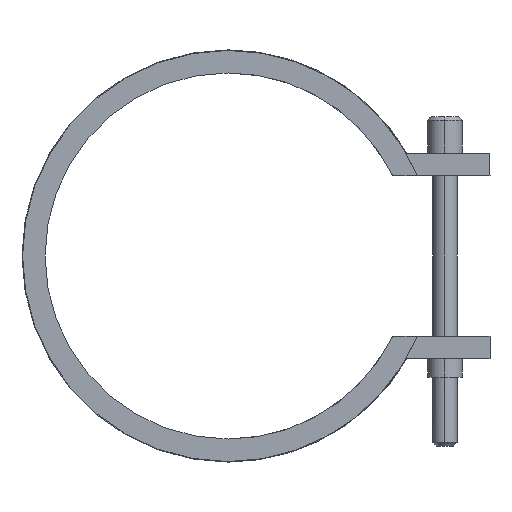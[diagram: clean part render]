
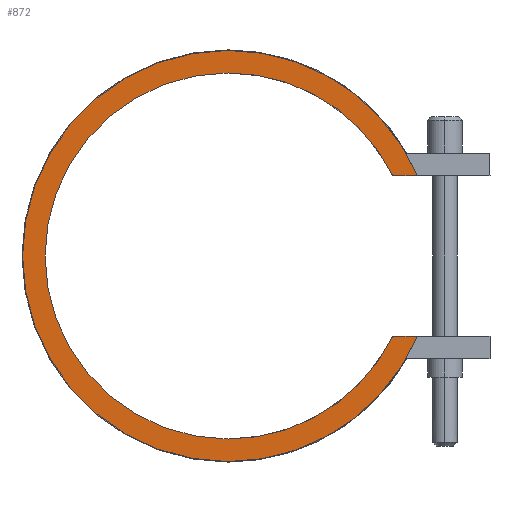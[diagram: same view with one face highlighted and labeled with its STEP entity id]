
A CAD part, left-side view. The second image highlights one B-rep face of the part: STEP entity #872.
In plain terms, the highlighted planar face has unit normal (-1, 0, 0).
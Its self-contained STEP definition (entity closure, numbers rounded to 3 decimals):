
#410=CARTESIAN_POINT('Vertex',(-25.,-29.209,-14.25)) ;
#413=CARTESIAN_POINT('Line Origine',(-25.,-31.406,-14.25)) ;
#417=CARTESIAN_POINT('Vertex',(-25.,-33.603,-14.25)) ;
#463=CARTESIAN_POINT('Vertex',(-25.,0.,-36.5)) ;
#466=CARTESIAN_POINT('Axis2P3D Location',(-25.,0.,0.)) ;
#487=CARTESIAN_POINT('Vertex',(-25.,0.,36.5)) ;
#490=CARTESIAN_POINT('Axis2P3D Location',(-25.,0.,0.)) ;
#502=CARTESIAN_POINT('Axis2P3D Location',(-25.,0.,0.)) ;
#506=CARTESIAN_POINT('Vertex',(-25.,-33.603,14.25)) ;
#526=CARTESIAN_POINT('Line Origine',(-25.,-31.406,14.25)) ;
#530=CARTESIAN_POINT('Vertex',(-25.,-29.209,14.25)) ;
#818=CARTESIAN_POINT('Axis2P3D Location',(-25.,0.,0.)) ;
#822=CARTESIAN_POINT('Vertex',(-25.,0.,-32.5)) ;
#845=CARTESIAN_POINT('Axis2P3D Location',(-25.,0.,0.)) ;
#850=CARTESIAN_POINT('Axis2P3D Location',(-25.,0.,0.)) ;
#854=CARTESIAN_POINT('Vertex',(-25.,0.,32.5)) ;
#857=CARTESIAN_POINT('Axis2P3D Location',(-25.,0.,0.)) ;
#414=DIRECTION('Vector Direction',(0.,1.,0.)) ;
#467=DIRECTION('Axis2P3D Direction',(1.,0.,-0.)) ;
#491=DIRECTION('Axis2P3D Direction',(1.,0.,-0.)) ;
#503=DIRECTION('Axis2P3D Direction',(1.,0.,-0.)) ;
#527=DIRECTION('Vector Direction',(0.,-1.,0.)) ;
#819=DIRECTION('Axis2P3D Direction',(1.,0.,-0.)) ;
#846=DIRECTION('Axis2P3D Direction',(1.,0.,0.)) ;
#847=DIRECTION('Axis2P3D XDirection',(0.,0.,-1.)) ;
#851=DIRECTION('Axis2P3D Direction',(1.,0.,0.)) ;
#858=DIRECTION('Axis2P3D Direction',(1.,0.,0.)) ;
#468=AXIS2_PLACEMENT_3D('Circle Axis2P3D',#466,#467,$) ;
#492=AXIS2_PLACEMENT_3D('Circle Axis2P3D',#490,#491,$) ;
#504=AXIS2_PLACEMENT_3D('Circle Axis2P3D',#502,#503,$) ;
#820=AXIS2_PLACEMENT_3D('Circle Axis2P3D',#818,#819,$) ;
#848=AXIS2_PLACEMENT_3D('Plane Axis2P3D',#845,#846,#847) ;
#852=AXIS2_PLACEMENT_3D('Circle Axis2P3D',#850,#851,$) ;
#859=AXIS2_PLACEMENT_3D('Circle Axis2P3D',#857,#858,$) ;
#863=ORIENTED_EDGE('',*,*,#419,.T.) ;
#864=ORIENTED_EDGE('',*,*,#824,.T.) ;
#865=ORIENTED_EDGE('',*,*,#856,.T.) ;
#866=ORIENTED_EDGE('',*,*,#861,.T.) ;
#867=ORIENTED_EDGE('',*,*,#532,.T.) ;
#868=ORIENTED_EDGE('',*,*,#508,.F.) ;
#869=ORIENTED_EDGE('',*,*,#494,.F.) ;
#870=ORIENTED_EDGE('',*,*,#470,.F.) ;
#415=VECTOR('Line Direction',#414,1.) ;
#528=VECTOR('Line Direction',#527,1.) ;
#872=ADVANCED_FACE('14065050',(#871),#849,.F.) ;
#469=CIRCLE('generated circle',#468,36.5) ;
#493=CIRCLE('generated circle',#492,36.5) ;
#505=CIRCLE('generated circle',#504,36.5) ;
#821=CIRCLE('generated circle',#820,32.5) ;
#853=CIRCLE('generated circle',#852,32.5) ;
#860=CIRCLE('generated circle',#859,32.5) ;
#419=EDGE_CURVE('',#418,#411,#416,.T.) ;
#470=EDGE_CURVE('',#418,#464,#469,.T.) ;
#494=EDGE_CURVE('',#464,#488,#493,.T.) ;
#508=EDGE_CURVE('',#488,#507,#505,.T.) ;
#532=EDGE_CURVE('',#531,#507,#529,.T.) ;
#824=EDGE_CURVE('',#411,#823,#821,.T.) ;
#856=EDGE_CURVE('',#823,#855,#853,.T.) ;
#861=EDGE_CURVE('',#855,#531,#860,.T.) ;
#862=EDGE_LOOP('',(#863,#864,#865,#866,#867,#868,#869,#870)) ;
#871=FACE_OUTER_BOUND('',#862,.T.) ;
#416=LINE('Line',#413,#415) ;
#529=LINE('Line',#526,#528) ;
#849=PLANE('Plane',#848) ;
#411=VERTEX_POINT('',#410) ;
#418=VERTEX_POINT('',#417) ;
#464=VERTEX_POINT('',#463) ;
#488=VERTEX_POINT('',#487) ;
#507=VERTEX_POINT('',#506) ;
#531=VERTEX_POINT('',#530) ;
#823=VERTEX_POINT('',#822) ;
#855=VERTEX_POINT('',#854) ;
